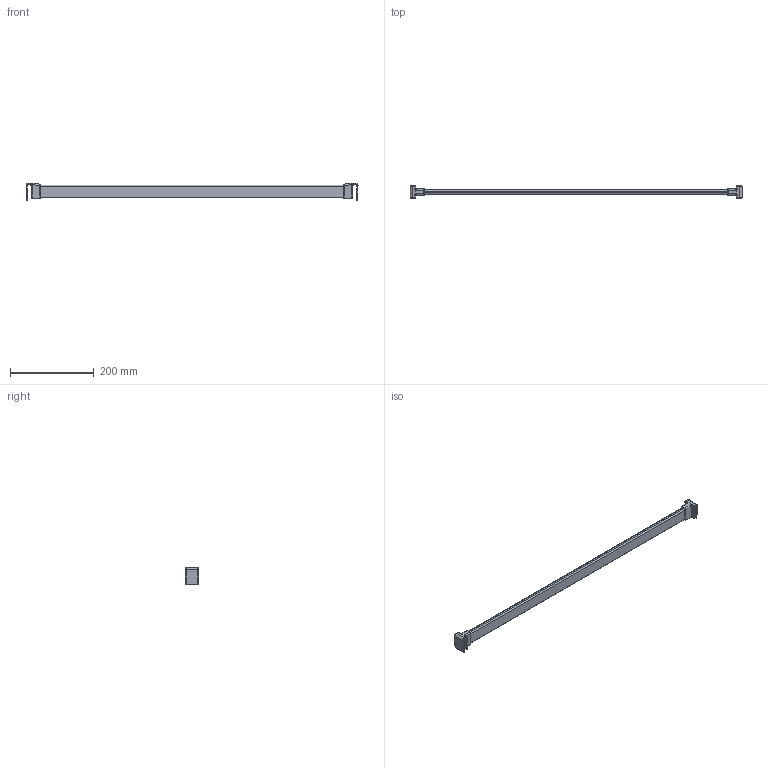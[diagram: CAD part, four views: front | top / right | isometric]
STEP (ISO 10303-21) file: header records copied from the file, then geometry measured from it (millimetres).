
FILE_DESCRIPTION (( 'STEP AP214' ), '1' );
FILE_NAME ('_Querreling_KAB-850_KS-16_P602_Glashalter.step', '2010-08-26T14:59:36', ( 'grass' ), ( '' ), 'SwSTEP 2.0', 'SolidWorks 2009', '' );
FILE_SCHEMA (( 'AUTOMOTIVE_DESIGN' ));
Length unit declared in the file: millimetre
Products named in the file (1): _Querreling_KAB-850_KS-16_P602_Glashalter
Bounding box: 790.78 x 30 x 41.5 mm (x, y, z)
Volume: 258772.6 mm3; surface area: 69870.9 mm2
Topology: 1 solids, 1 shells, 124 faces, 300 edges, 176 vertices
Faces by surface type: cylinder 58, plane 34, torus 16, bspline 12, sphere 4
Entity records: 5090 total; most frequent: CARTESIAN_POINT 2269, ORIENTED_EDGE 592, DIRECTION 590, EDGE_CURVE 296, AXIS2_PLACEMENT_3D 225, VERTEX_POINT 176, VECTOR 140, LINE 140
